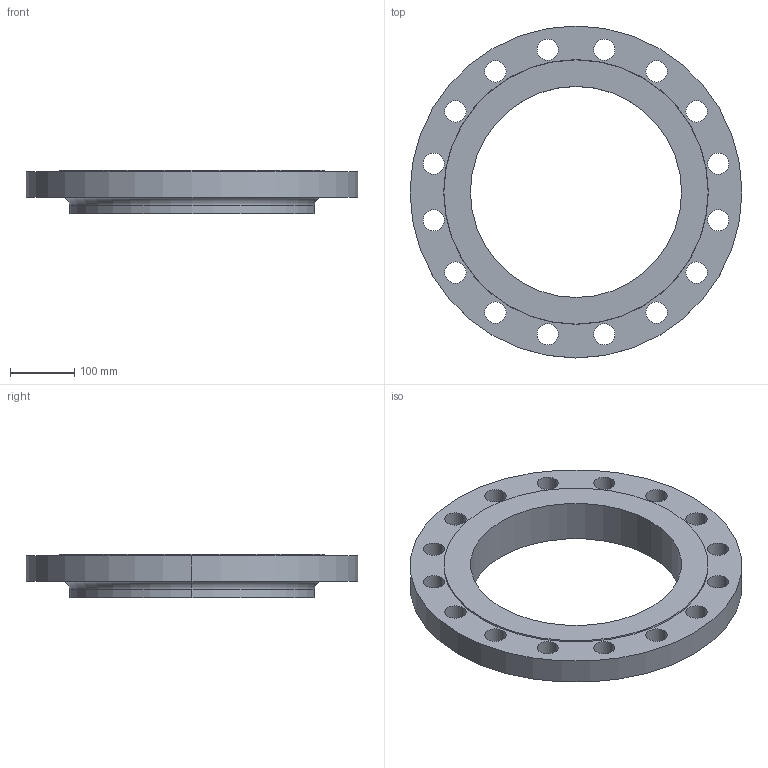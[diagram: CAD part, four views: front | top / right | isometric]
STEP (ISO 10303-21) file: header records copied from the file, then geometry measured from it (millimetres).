
FILE_DESCRIPTION (( 'STEP AP214' ), '1' );
FILE_NAME ('PN40 DN300 Type 12 - Type B Face.STEP', '2019-01-05T20:21:48', ( '' ), ( '' ), 'SwSTEP 2.0', 'SolidWorks 2019', '' );
FILE_SCHEMA (( 'AUTOMOTIVE_DESIGN' ));
Length unit declared in the file: millimetre
Products named in the file (1): PN40 DN300 Type 12 - Type B Face
Bounding box: 515 x 515 x 67 mm (x, y, z)
Volume: 5278099.2 mm3; surface area: 446692.8 mm2
Topology: 1 solids, 1 shells, 46 faces, 124 edges, 82 vertices
Faces by surface type: cylinder 38, plane 4, torus 2, cone 2
Entity records: 1598 total; most frequent: DIRECTION 302, CARTESIAN_POINT 253, ORIENTED_EDGE 248, AXIS2_PLACEMENT_3D 131, EDGE_CURVE 124, CIRCLE 84, VERTEX_POINT 82, EDGE_LOOP 82
